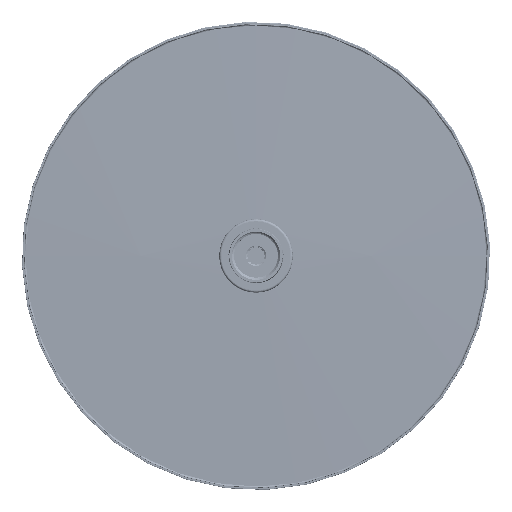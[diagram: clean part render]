
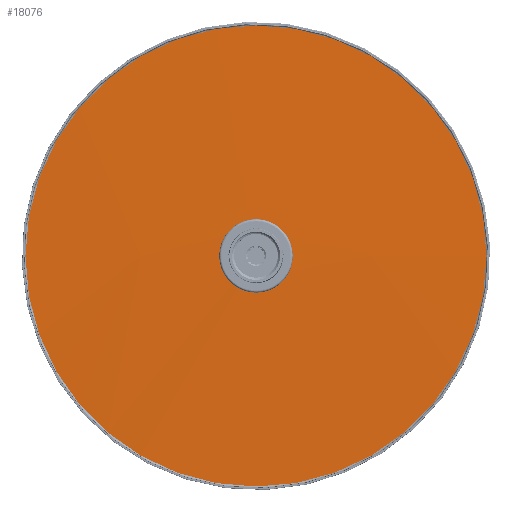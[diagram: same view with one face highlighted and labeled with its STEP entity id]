
A CAD part, top view. The second image highlights one B-rep face of the part: STEP entity #18076.
In plain terms, the highlighted spherical face has radius 3234.33 mm.
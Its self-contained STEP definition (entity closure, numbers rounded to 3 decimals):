
#21=SPHERICAL_SURFACE('',#20664,3234.333);
#2626=ORIENTED_EDGE('',*,*,#6066,.T.);
#2627=ORIENTED_EDGE('',*,*,#6064,.T.);
#6064=EDGE_CURVE('',#7956,#7956,#9647,.T.);
#6066=EDGE_CURVE('',#7958,#7958,#9649,.T.);
#7956=VERTEX_POINT('',#31209);
#7958=VERTEX_POINT('',#31215);
#9647=CIRCLE('',#20659,14.151);
#9649=CIRCLE('',#20663,100.166);
#11617=EDGE_LOOP('',(#2626));
#11618=EDGE_LOOP('',(#2627));
#14870=FACE_BOUND('',#11617,.T.);
#14871=FACE_BOUND('',#11618,.T.);
#18076=ADVANCED_FACE('',(#14870,#14871),#21,.T.);
#20659=AXIS2_PLACEMENT_3D('',#31208,#24224,#24225);
#20663=AXIS2_PLACEMENT_3D('',#31214,#24232,#24233);
#20664=AXIS2_PLACEMENT_3D('',#31216,#24234,#24235);
#24224=DIRECTION('',(0.,0.,-1.));
#24225=DIRECTION('',(-1.,0.,0.));
#24232=DIRECTION('',(0.,0.,1.));
#24233=DIRECTION('',(1.,0.,0.));
#24234=DIRECTION('',(0.,1.,0.));
#24235=DIRECTION('',(0.,0.,-1.));
#31208=CARTESIAN_POINT('',(0.,0.,0.969));
#31209=CARTESIAN_POINT('',(-14.151,0.,0.969));
#31214=CARTESIAN_POINT('',(0.,0.,-0.551));
#31215=CARTESIAN_POINT('',(100.166,0.,-0.551));
#31216=CARTESIAN_POINT('',(0.,0.,
-3233.333));
